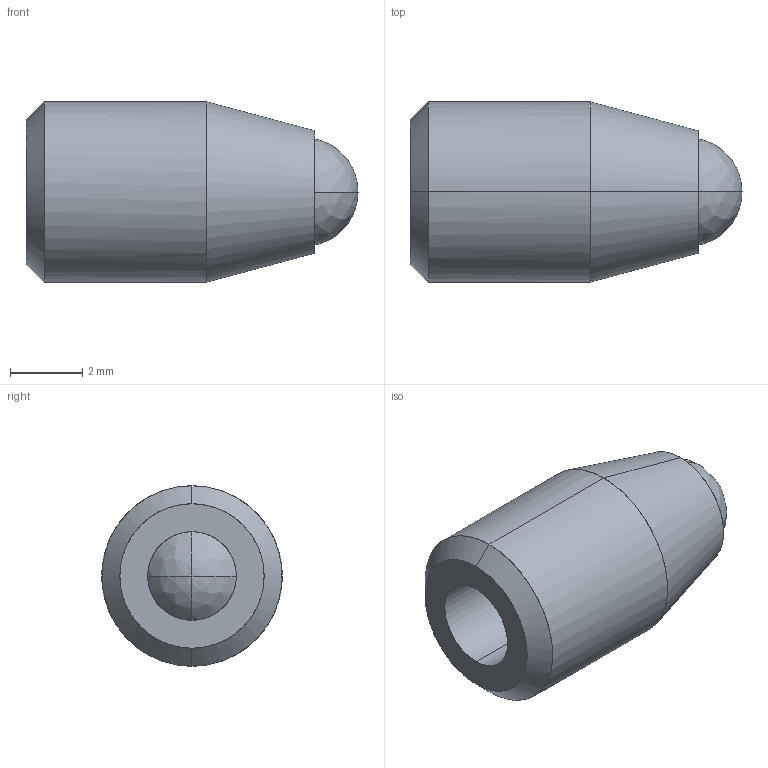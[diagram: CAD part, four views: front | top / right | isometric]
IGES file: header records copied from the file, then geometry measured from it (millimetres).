
Start section: Comment
Global section: file name: 10119910.igs; native system:  By UGS Corp.; preprocessor: XPlus GENERIC/IGES 3.0; author: Author; organization: Title; date: 20100906.075926; units: millimetre
Bounding box: 9.2 x 4.99 x 5 mm (x, y, z)
Surface area: 207.3 mm2 (no closed solid volume)
Topology: 0 solids, 0 shells, 22 faces, 92 edges, 84 vertices
Faces by surface type: bspline 22
